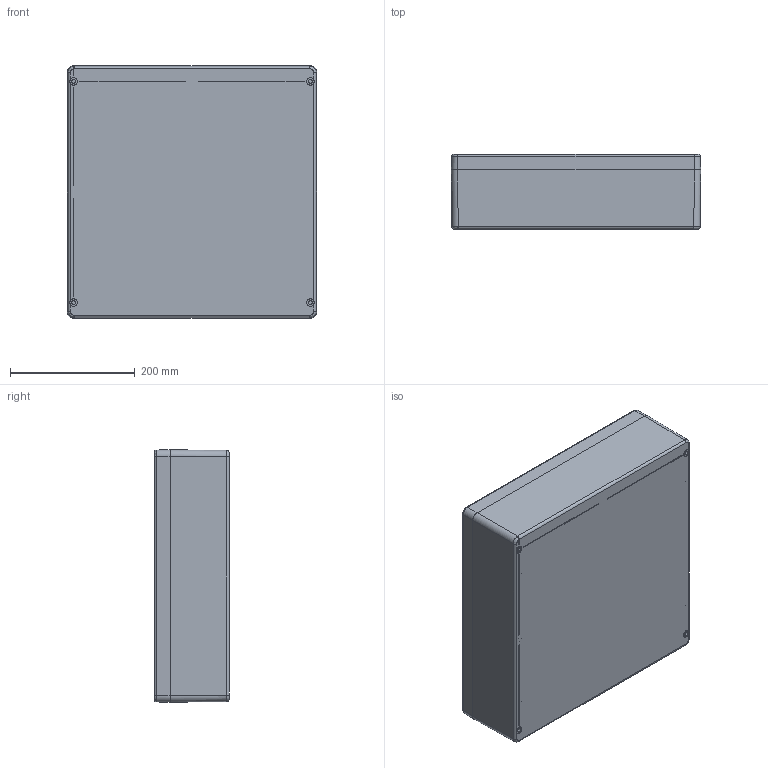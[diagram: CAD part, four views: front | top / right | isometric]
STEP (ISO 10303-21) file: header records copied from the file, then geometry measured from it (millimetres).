
FILE_DESCRIPTION((''),'2;1');
FILE_NAME('4454000000_ASM','2024-01-03T11:50:59',('silke.otte'),(''),'CREO PARAMETRIC BY PTC INC, 2022124','CREO PARAMETRIC BY PTC INC, 2022124','');
FILE_SCHEMA(('AUTOMOTIVE_DESIGN { 1 0 10303 214 1 1 1 1 }'));
Length unit declared in the file: millimetre
Products named in the file (12): 9331012000; 9502218000; 9502217000; 9331012000_ASM; 9332031000; CP-DICHTUNG_45; 9614004300_ASM; 9262006000; 9261027000; 9258857000; 9258838000; 4454000000_ASM
Assembly tree (26 placements, depth 3):
  4454000000_ASM
    9331012000_ASM
      9331012000
      9502218000  x6
      9502217000  x4
    9614004300_ASM
      9332031000
      CP-DICHTUNG_45
    9262006000  x4
    9261027000  x4
    9258857000  x2
    9258838000
Bounding box: 400 x 120.6 x 405 mm (x, y, z)
Volume: 2995833.6 mm3; surface area: 1057781.3 mm2
Topology: 24 solids, 38 shells, 2257 faces, 9735 edges, 11248 vertices
Faces by surface type: plane 1618, cone 384, cylinder 198, bspline 37, torus 20
Entity records: 52853 total; most frequent: CARTESIAN_POINT 12452, DIRECTION 6257, ORIENTED_EDGE 3928, VECTOR 3125, LINE 3125, PRESENTATION_STYLE_ASSIGNMENT 2258, STYLED_ITEM 2237, CURVE_STYLE 2226
